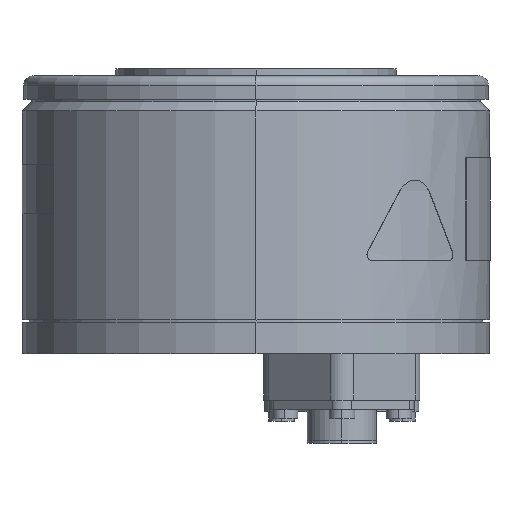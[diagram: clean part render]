
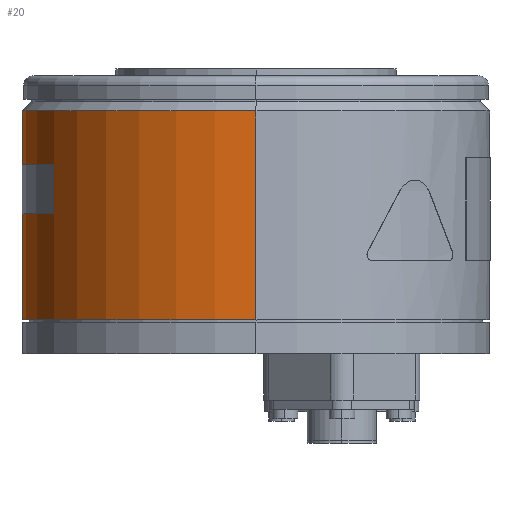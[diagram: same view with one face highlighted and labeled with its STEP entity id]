
A CAD part, left-side view. The second image highlights one B-rep face of the part: STEP entity #20.
In plain terms, the highlighted cylindrical face has radius 50 mm (diameter 100 mm), a partial arc.
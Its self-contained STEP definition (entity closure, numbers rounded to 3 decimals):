
#20 = ADVANCED_FACE ( 'NONE', ( #3009, #3017 ), #3011, .T. ) ;
#267 = CARTESIAN_POINT ( 'NONE',  ( 50., 0., 52. ) ) ;
#268 = CARTESIAN_POINT ( 'NONE',  ( -50., 0., 52. ) ) ;
#1014 = ORIENTED_EDGE ( 'NONE', *, *, #6264, .F. ) ;
#1015 = ORIENTED_EDGE ( 'NONE', *, *, #6263, .F. ) ;
#1016 = ORIENTED_EDGE ( 'NONE', *, *, #6253, .F. ) ;
#1017 = ORIENTED_EDGE ( 'NONE', *, *, #6265, .F. ) ;
#1018 = ORIENTED_EDGE ( 'NONE', *, *, #6258, .T. ) ;
#1019 = ORIENTED_EDGE ( 'NONE', *, *, #6261, .T. ) ;
#1020 = ORIENTED_EDGE ( 'NONE', *, *, #6267, .F. ) ;
#1399 = CARTESIAN_POINT ( 'NONE',  ( 25., 43.301, 0. ) ) ;
#1400 = DIRECTION ( 'NONE',  ( 0., 0., -1. ) ) ;
#1403 = CARTESIAN_POINT ( 'NONE',  ( 0., 0., 52. ) ) ;
#1412 = DIRECTION ( 'NONE',  ( 0., 0., -1. ) ) ;
#1413 = DIRECTION ( 'NONE',  ( -1., 0., 0. ) ) ;
#1414 = CARTESIAN_POINT ( 'NONE',  ( -50., 0., 0. ) ) ;
#1416 = DIRECTION ( 'NONE',  ( 0., 0., -1. ) ) ;
#1417 = CARTESIAN_POINT ( 'NONE',  ( 50., 0., 0. ) ) ;
#1418 = DIRECTION ( 'NONE',  ( 0., 0., -1. ) ) ;
#1419 = CARTESIAN_POINT ( 'NONE',  ( 0., 0., 40.5 ) ) ;
#1422 = CARTESIAN_POINT ( 'NONE',  ( 0., 0., 30. ) ) ;
#1424 = DIRECTION ( 'NONE',  ( 0., 0., 1. ) ) ;
#1425 = DIRECTION ( 'NONE',  ( -1., 0., 0. ) ) ;
#1426 = CARTESIAN_POINT ( 'NONE',  ( -25., 43.301, 0. ) ) ;
#1427 = DIRECTION ( 'NONE',  ( 0., 0., 1. ) ) ;
#1428 = CARTESIAN_POINT ( 'NONE',  ( 0., 0., 7.3 ) ) ;
#1429 = DIRECTION ( 'NONE',  ( 0., 0., -1. ) ) ;
#1430 = DIRECTION ( 'NONE',  ( 1., 0., 0. ) ) ;
#1434 = DIRECTION ( 'NONE',  ( 0., 0., -1. ) ) ;
#1435 = DIRECTION ( 'NONE',  ( -1., 0., 0. ) ) ;
#2198 = AXIS2_PLACEMENT_3D ( 'NONE', #1428, #1434, #1435 ) ;
#2532 = AXIS2_PLACEMENT_3D ( 'NONE', #1403, #1412, #1413 ) ;
#2565 = AXIS2_PLACEMENT_3D ( 'NONE', #1419, #1429, #1430 ) ;
#2582 = AXIS2_PLACEMENT_3D ( 'NONE', #1422, #1424, #1425 ) ;
#3009 = FACE_BOUND ( 'NONE', #8095, .T. ) ;
#3011 = CYLINDRICAL_SURFACE ( 'NONE', #8262, 50. ) ;
#3017 = FACE_OUTER_BOUND ( 'NONE', #8116, .T. ) ;
#3309 = CARTESIAN_POINT ( 'NONE',  ( 25., 43.301, 40.5 ) ) ;
#3311 = CARTESIAN_POINT ( 'NONE',  ( -50., 0., 7.3 ) ) ;
#3313 = CARTESIAN_POINT ( 'NONE',  ( 50., 0., 7.3 ) ) ;
#3595 = VERTEX_POINT ( 'NONE', #9678 ) ;
#3596 = VERTEX_POINT ( 'NONE', #9679 ) ;
#3597 = VERTEX_POINT ( 'NONE', #9680 ) ;
#6253 = EDGE_CURVE ( 'NONE', #7797, #3595, #9380, .T. ) ;
#6258 = EDGE_CURVE ( 'NONE', #7056, #7055, #9391, .T. ) ;
#6260 = EDGE_CURVE ( 'NONE', #7056, #7798, #9386, .T. ) ;
#6261 = EDGE_CURVE ( 'NONE', #7055, #7802, #9394, .T. ) ;
#6263 = EDGE_CURVE ( 'NONE', #3595, #3596, #9398, .T. ) ;
#6264 = EDGE_CURVE ( 'NONE', #3596, #3597, #9393, .T. ) ;
#6265 = EDGE_CURVE ( 'NONE', #3597, #7797, #9400, .T. ) ;
#6267 = EDGE_CURVE ( 'NONE', #7798, #7802, #9404, .T. ) ;
#6944 = DIRECTION ( 'NONE',  ( 0., 0., -1. ) ) ;
#6945 = CARTESIAN_POINT ( 'NONE',  ( 0., 0., 0. ) ) ;
#6946 = DIRECTION ( 'NONE',  ( -1., 0., 0. ) ) ;
#7055 = VERTEX_POINT ( 'NONE', #267 ) ;
#7056 = VERTEX_POINT ( 'NONE', #268 ) ;
#7797 = VERTEX_POINT ( 'NONE', #3309 ) ;
#7798 = VERTEX_POINT ( 'NONE', #3311 ) ;
#7802 = VERTEX_POINT ( 'NONE', #3313 ) ;
#8095 = EDGE_LOOP ( 'NONE', ( #1014, #1015, #1016, #1017 ) ) ;
#8116 = EDGE_LOOP ( 'NONE', ( #1018, #1019, #1020, #8533 ) ) ;
#8262 = AXIS2_PLACEMENT_3D ( 'NONE', #6945, #6944, #6946 ) ;
#8533 = ORIENTED_EDGE ( 'NONE', *, *, #6260, .F. ) ;
#9380 = LINE ( 'NONE', #1399, #9381 ) ;
#9381 = VECTOR ( 'NONE', #1400, 1000. ) ;
#9386 = LINE ( 'NONE', #1414, #9392 ) ;
#9388 = VECTOR ( 'NONE', #1427, 1000. ) ;
#9391 = CIRCLE ( 'NONE', #2532, 50. ) ;
#9392 = VECTOR ( 'NONE', #1416, 1000. ) ;
#9393 = LINE ( 'NONE', #1426, #9388 ) ;
#9394 = LINE ( 'NONE', #1417, #9395 ) ;
#9395 = VECTOR ( 'NONE', #1418, 1000. ) ;
#9398 = CIRCLE ( 'NONE', #2582, 50. ) ;
#9400 = CIRCLE ( 'NONE', #2565, 50. ) ;
#9404 = CIRCLE ( 'NONE', #2198, 50. ) ;
#9678 = CARTESIAN_POINT ( 'NONE',  ( 25., 43.301, 30. ) ) ;
#9679 = CARTESIAN_POINT ( 'NONE',  ( -25., 43.301, 30. ) ) ;
#9680 = CARTESIAN_POINT ( 'NONE',  ( -25., 43.301, 40.5 ) ) ;
